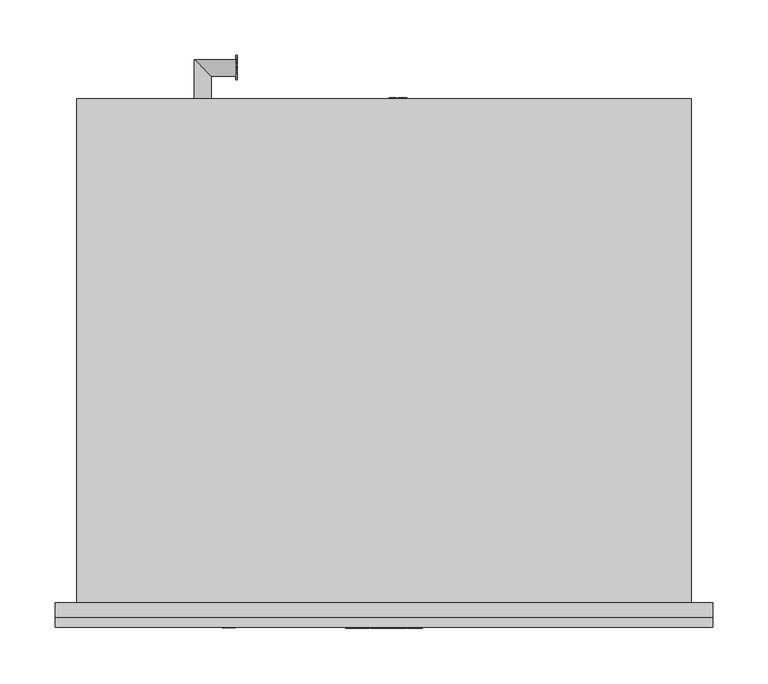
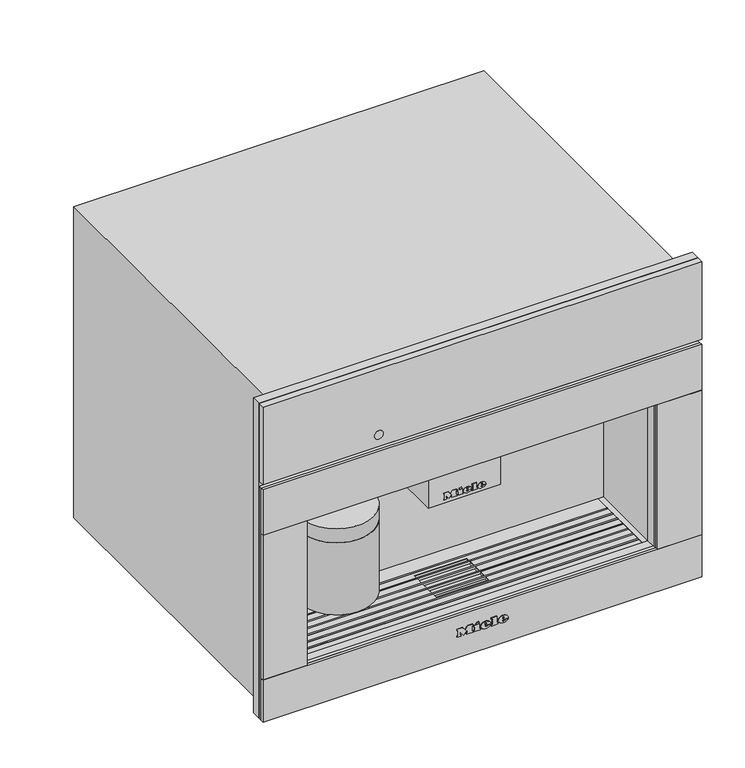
"""IFC4 building model written with IfcOpenShell, lengths in millimetres: proxy geometry, 11165990_NER_CVA7845_GRGR : 29784530_NER_11165990_CVA7845_GRGR."""

from ifc_helpers import new_model, si_unit, point, frame, frame_2d, origin, place, context, project, spatial, polyline, circle_curve, ellipse_curve, trimmed, segment, composite_curve, outline, extrude, faceted_brep, source, transform, mapped, element, save
from ifc_brep_helpers import plane_surface, cylinder_surface, revolved_surface, extruded_surface, advanced_brep


def specialty_equipment_a9d6c1d4(model_context):
    return source(origin(), model_context, "Body", "SolidModel", [
        extrude(outline(composite_curve([segment(trimmed(circle_curve(frame_2d((-14.0, 36.5)), 5.0), [point((-9.0, 36.5))], [point((-19.0, 36.5))], False, "CARTESIAN"), True, "CONTINUOUS"), segment(trimmed(circle_curve(frame_2d((-14.0, 36.5)), 5.0), [point((-19.0, 36.5))], [point((-9.0, 36.5))], False, "CARTESIAN"), True, "CONTINUOUS")], self_intersect=False)), frame((0.0, 0.0, 193.0), z_axis=(0.0, 0.0, 1.0), x_axis=(1.0, 0.0, 0.0)), (0.0, 0.0, 1.0), 5.0),
        extrude(outline(composite_curve([segment(trimmed(circle_curve(frame_2d((14.0, 36.5)), 5.0), [point((19.0, 36.5))], [point((9.0, 36.5))], False, "CARTESIAN"), True, "CONTINUOUS"), segment(trimmed(circle_curve(frame_2d((14.0, 36.5)), 5.0), [point((9.0, 36.5))], [point((19.0, 36.5))], False, "CARTESIAN"), True, "CONTINUOUS")], self_intersect=False)), frame((0.0, 0.0, 193.0), z_axis=(0.0, 0.0, 1.0), x_axis=(1.0, 0.0, 0.0)), (0.0, 0.0, 1.0), 5.0),
        extrude(outline(composite_curve([segment(trimmed(circle_curve(frame_2d((-156.5, 49.5)), 50.0), [point((-106.5, 49.5))], [point((-206.5, 49.5))], False, "CARTESIAN"), True, "CONTINUOUS"), segment(trimmed(circle_curve(frame_2d((-156.5, 49.5)), 50.0), [point((-206.5, 49.5))], [point((-106.5, 49.5))], False, "CARTESIAN"), True, "CONTINUOUS")], self_intersect=False)), frame((0.0, 0.0, 100.0), z_axis=(0.0, 0.0, 1.0), x_axis=(1.0, 0.0, 0.0)), (0.0, 0.0, 1.0), 103.0),
        extrude(outline(polyline([(-49.0, 95.0), (49.0, 95.0), (49.0, 20.0), (-49.0, 20.0), (-49.0, 95.0)])), frame((0.0, 0.0, 198.0), z_axis=(0.0, 0.0, 1.0), x_axis=(1.0, 0.0, 0.0)), (0.0, 0.0, 1.0), 75.0),
        extrude(outline(polyline([(455.5, 297.5), (455.5, -297.5), (4.0, -297.5), (4.0, 297.5), (455.5, 297.5)]), holes=[polyline([(273.0, 237.5), (63.0, 237.5), (63.0, -237.5), (273.0, -237.5), (273.0, 237.5)])]), frame((0.0, -13.0, 0.0), z_axis=(0.0, 1.0, 0.0), x_axis=(0.0, 0.0, 1.0)), (0.0, 0.0, 1.0), 13.0),
        extrude(outline(polyline([(473.48348, 22.0), (473.48348, 32.045631), (474.7391839, 32.045631), (474.7391839, 27.128275), (479.8895318, 32.045631), (481.6455552, 32.045631), (477.3217155, 27.9155425), (481.8025182, 22.0), (480.267224, 22.0), (476.4314411, 27.0669613), (474.7391839, 25.4531857), (474.7391839, 22.0), (473.48348, 22.0)])), frame((-134.0, 0.0, 0.0), z_axis=(1.0, 0.0, 0.0), x_axis=(0.0, 1.0, 0.0)), (0.0, 0.0, 1.0), 1.0),
        extrude(outline(polyline([(484.5420128, 22.0), (481.8025182, 32.045631), (483.0974628, 32.045631), (484.6867131, 25.4433755), (485.1772224, 23.4053092), (485.7020674, 25.207931), (487.6935352, 32.045631), (489.5599232, 32.045631), (491.0069257, 27.0890343), (492.0835937, 23.4053092), (492.5593878, 25.3845144), (494.1633533, 32.045631), (495.4582979, 32.045631), (492.7163507, 22.0), (491.3748077, 22.0), (488.9664069, 29.7500474), (488.630408, 30.8316204), (488.2527159, 29.5293182), (486.0576866, 22.0), (484.5420128, 22.0)])), frame((-134.0, 0.0, 0.0), z_axis=(1.0, 0.0, 0.0), x_axis=(0.0, 1.0, 0.0)), (0.0, 0.0, 1.0), 1.0),
        advanced_brep(
        [(-156.5, 456.0, 27.0), (-171.5, 456.0, 27.0), (-156.5, 476.5, 27.0), (-171.5, 491.5, 27.0), (-134.0, 476.5, 27.0), (-134.0, 491.5, 27.0)],
        [
            (0, 1, circle_curve(frame((-164.0, 456.0, 27.0), z_axis=(0.0, -1.0, 0.0), x_axis=(-1.0, 0.0, 0.0)), 7.5)),
            (1, 0, circle_curve(frame((-164.0, 456.0, 27.0), z_axis=(0.0, -1.0, 0.0), x_axis=(-1.0, 0.0, 0.0)), 7.5)),
            (0, 2),
            (2, 3, ellipse_curve(frame((-164.0, 484.0, 27.0), z_axis=(-0.707106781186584, -0.7071067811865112, 0.0), x_axis=(0.7071067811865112, -0.7071067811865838, 0.0)), 10.6066017, 7.5)),
            (3, 1),
            (3, 2, ellipse_curve(frame((-164.0, 484.0, 27.0), z_axis=(-0.707106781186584, -0.7071067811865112, 0.0), x_axis=(0.7071067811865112, -0.7071067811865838, 0.0)), 10.6066017, 7.5)),
            (4, 5, circle_curve(frame((-134.0, 484.0, 27.0), z_axis=(1.0, 0.0, 0.0), x_axis=(0.0, 1.0, 0.0)), 7.5)),
            (5, 4, circle_curve(frame((-134.0, 484.0, 27.0), z_axis=(1.0, 0.0, 0.0), x_axis=(0.0, 1.0, 0.0)), 7.5)),
            (2, 4),
            (5, 3),
        ],
        [
            plane_surface(frame((-164.0, 456.0, 27.0), z_axis=(0.0, -1.0, 0.0), x_axis=(0.0, 0.0, 1.0))),
            cylinder_surface(frame((-164.0, 456.0, 27.0), z_axis=(0.0, -1.0, 0.0), x_axis=(-1.0, 0.0, 0.0)), 7.5),
            plane_surface(frame((-134.0, 484.0, 27.0), z_axis=(1.0, 0.0, 0.0), x_axis=(0.0, 0.0, 1.0))),
            cylinder_surface(frame((-164.0, 484.0, 27.0), z_axis=(-1.0, 0.0, 0.0), x_axis=(0.0, 1.0, 0.0)), 7.5),
        ],
        [
            (0, [[1, 2]]),
            (1, [[-1, 3, 4, 5]]),
            (1, [[-2, -5, 6, -3]]),
            (2, [[7, 8]]),
            (3, [[-4, 9, -8, 10]]),
            (3, [[-6, -10, -7, -9]]),
        ],
    ),
        extrude(outline(polyline([(97.0, 20.4012141), (107.045631, 20.4012141), (107.045631, 13.1809168), (105.7899271, 13.1809168), (105.7899271, 19.1455102), (102.8076304, 19.1455102), (102.8076304, 13.4948427), (101.5519266, 13.4948427), (101.5519266, 19.1455102), (98.2557039, 19.1455102), (98.2557039, 13.0239538), (97.0, 13.0239538), (97.0, 20.4012141)])), frame((0.0, 456.0, 0.0), z_axis=(0.0, 1.0, 0.0), x_axis=(0.0, 0.0, 1.0)), (0.0, 0.0, 1.0), 1.0),
        extrude(outline(polyline([(97.0, 11.140398), (107.045631, 11.140398), (107.045631, 9.8846941), (98.2557039, 9.8846941), (98.2557039, 4.8618786), (97.0, 4.8618786), (97.0, 11.140398)])), frame((0.0, 456.0, 0.0), z_axis=(0.0, 1.0, 0.0), x_axis=(0.0, 0.0, 1.0)), (0.0, 0.0, 1.0), 1.0),
        advanced_brep(
        [(55.0, 425.5, 102.0), (55.0, 410.5, 102.0), (20.5239538, 425.5, 102.0), (5.5239538, 410.5, 102.0), (20.5239538, 456.0, 102.0), (5.5239538, 456.0, 102.0)],
        [
            (0, 1, circle_curve(frame((55.0, 418.0, 102.0), z_axis=(1.0, 0.0, 0.0), x_axis=(0.0, -1.0, 0.0)), 7.5)),
            (1, 0, circle_curve(frame((55.0, 418.0, 102.0), z_axis=(1.0, 0.0, 0.0), x_axis=(0.0, -1.0, 0.0)), 7.5)),
            (0, 2),
            (2, 3, ellipse_curve(frame((13.0239538, 418.0, 102.0), z_axis=(0.7071067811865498, -0.7071067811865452, 0.0), x_axis=(0.7071067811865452, 0.7071067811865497, 0.0)), 10.6066017, 7.5)),
            (3, 1),
            (3, 2, ellipse_curve(frame((13.0239538, 418.0, 102.0), z_axis=(0.7071067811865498, -0.7071067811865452, 0.0), x_axis=(0.7071067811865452, 0.7071067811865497, 0.0)), 10.6066017, 7.5)),
            (4, 5, circle_curve(frame((13.0239538, 456.0, 102.0), z_axis=(0.0, 1.0, 0.0), x_axis=(-1.0, 0.0, 0.0)), 7.5)),
            (5, 4, circle_curve(frame((13.0239538, 456.0, 102.0), z_axis=(0.0, 1.0, 0.0), x_axis=(-1.0, 0.0, 0.0)), 7.5)),
            (2, 4),
            (5, 3),
        ],
        [
            plane_surface(frame((55.0, 418.0, 102.0), z_axis=(1.0, 0.0, 0.0), x_axis=(0.0, 0.0, 1.0))),
            cylinder_surface(frame((55.0, 418.0, 102.0), z_axis=(1.0, 0.0, 0.0), x_axis=(0.0, -1.0, 0.0)), 7.5),
            plane_surface(frame((13.0239538, 456.0, 102.0), z_axis=(0.0, 1.0, 0.0), x_axis=(0.0, 0.0, 1.0))),
            cylinder_surface(frame((13.0239538, 418.0, 102.0), z_axis=(0.0, -1.0, 0.0), x_axis=(-1.0, 0.0, 0.0)), 7.5),
        ],
        [
            (0, [[1, 2]]),
            (1, [[-1, 3, 4, 5]]),
            (1, [[-2, -5, 6, -3]]),
            (2, [[7, 8]]),
            (3, [[-4, 9, -8, 10]]),
            (3, [[-6, -10, -7, -9]]),
        ],
    ),
        advanced_brep(
        [(-110.0, 49.5, 252.0), (-203.0, 49.5, 252.0), (-206.5, 49.5, 223.5), (-106.5, 49.5, 223.5), (-110.0, 49.5, 273.0), (-203.0, 49.5, 273.0), (-156.5, 49.5, 273.0), (-106.5, 49.5, 203.0), (-206.5, 49.5, 203.0), (-156.5, 49.5, 203.0)],
        [
            (0, 1, circle_curve(frame((-156.5, 49.5, 252.0), z_axis=(0.0, 0.0, -1.0), x_axis=(-1.0, 0.0, 0.0)), 46.5)),
            (1, 2, circle_curve(frame((-206.7961166, 49.5, 238.0012775), z_axis=(0.0, 1.0, 0.0), x_axis=(-1.0, 0.0, 0.0)), 14.5043005)),
            (2, 3, circle_curve(frame((-156.5, 49.5, 223.5), z_axis=(0.0, 0.0, 1.0), x_axis=(-1.0, 0.0, 0.0)), 50.0)),
            (3, 0, circle_curve(frame((-106.2038834, 49.5, 238.0012775), z_axis=(0.0, 1.0, 0.0), x_axis=(1.0, 0.0, 0.0)), 14.5043005)),
            (4, 5, circle_curve(frame((-156.5, 49.5, 273.0), z_axis=(0.0, 0.0, -1.0), x_axis=(-1.0, 0.0, 0.0)), 46.5)),
            (5, 1),
            (0, 4),
            (6, 4),
            (4, 5, circle_curve(frame((-156.5, 49.5, 273.0), z_axis=(0.0, 0.0, 1.0), x_axis=(-1.0, 0.0, 0.0)), 46.5)),
            (5, 6),
            (7, 8, circle_curve(frame((-156.5, 49.5, 203.0), z_axis=(0.0, 0.0, -1.0), x_axis=(-1.0, 0.0, 0.0)), 50.0)),
            (8, 9),
            (9, 7),
            (8, 7, circle_curve(frame((-156.5, 49.5, 203.0), z_axis=(0.0, 0.0, -1.0), x_axis=(-1.0, 0.0, 0.0)), 50.0)),
            (2, 8),
            (7, 3),
            (2, 3, circle_curve(frame((-156.5, 49.5, 223.5), z_axis=(0.0, 0.0, -1.0), x_axis=(-1.0, 0.0, 0.0)), 50.0)),
            (1, 0, circle_curve(frame((-156.5, 49.5, 252.0), z_axis=(0.0, 0.0, -1.0), x_axis=(-1.0, 0.0, 0.0)), 46.5)),
        ],
        [
            revolved_surface(trimmed(ellipse_curve(frame((-206.7961166, 49.5, 238.0012775), z_axis=(0.0, -1.0, 0.0), x_axis=(-1.0, 0.0, 0.0)), 14.5043005, 14.5043005), [point((-206.5, 49.5, 223.5))], [point((-203.0, 49.5, 252.0))], True, "CARTESIAN"), (-156.5, 49.5, 388.7361736), (0.0, 0.0, 1.0)),
            cylinder_surface(frame((-156.5, 49.5, 388.7361736), z_axis=(0.0, 0.0, 1.0), x_axis=(-1.0, 0.0, 0.0)), 46.5),
            plane_surface(frame((-156.5, 49.5, 273.0), z_axis=(0.0, 0.0, 1.0), x_axis=(-1.0, 0.0, 0.0))),
            plane_surface(frame((-156.5, 49.5, 203.0), z_axis=(0.0, 0.0, -1.0), x_axis=(-1.0, 0.0, 0.0))),
            cylinder_surface(frame((-156.5, 49.5, 388.7361736), z_axis=(0.0, 0.0, 1.0), x_axis=(-1.0, 0.0, 0.0)), 50.0),
        ],
        [
            (0, [[1, 2, 3, 4]]),
            (1, [[5, 6, -1, 7]]),
            (2, [[8, 9, 10]]),
            (3, [[11, 12, 13]]),
            (3, [[14, -13, -12]]),
            (4, [[-3, 15, -11, 16]]),
            (4, [[17, -16, -14, -15]]),
            (0, [[18, -4, -17, -2]]),
            (1, [[-9, -7, -18, -6]]),
            (2, [[-10, -5, -8]]),
        ],
    ),
        faceted_brep([(229.5, 82.0925571, 60.0), (229.5, 80.0925571, 60.0), (-229.5, 80.0925571, 60.0), (-229.5, 82.0925571, 60.0), (229.5, 70.0550731, 60.0), (229.5, 68.0550731, 60.0), (-229.5, 68.0550731, 60.0), (-229.5, 70.0550731, 60.0), (229.5, 58.0175891, 60.0), (229.5, 56.0175891, 60.0), (-229.5, 56.0175891, 60.0), (-229.5, 58.0175891, 60.0), (229.5, 45.9801052, 60.0), (229.5, 43.9801052, 60.0), (-229.5, 43.9801052, 60.0), (-229.5, 45.9801052, 60.0), (229.5, 33.9426212, 60.0), (229.5, 31.9426212, 60.0), (-229.5, 31.9426212, 60.0), (-229.5, 33.9426212, 60.0), (229.5, 21.9776522, 60.0), (229.5, 19.9776522, 60.0), (-229.5, 19.9776522, 60.0), (-229.5, 21.9776522, 60.0), (229.5, 10.0, 60.0), (229.5, 8.0, 60.0), (-229.5, 8.0, 60.0), (-229.5, 10.0, 60.0), (-229.5, 45.9801052, 62.0), (-36.0, 45.9801052, 62.0), (-36.0, 45.9801052, 63.0), (-229.5, 45.9801052, 63.0), (-229.5, 45.9801052, 63.5), (229.5, 45.9801052, 63.5), (229.5, 45.9801052, 63.0), (36.0, 45.9801052, 63.0), (36.0, 45.9801052, 62.0), (229.5, 45.9801052, 62.0), (229.5, 19.9776522, 62.0), (229.5, 10.0, 62.0), (-229.5, 10.0, 62.0), (-229.5, 19.9776522, 62.0), (229.5, 43.9801052, 62.0), (229.5, 33.9426212, 62.0), (36.0, 33.9426212, 62.0), (36.0, 43.9801052, 62.0), (229.5, 56.0175891, 62.0), (36.0, 56.0175891, 62.0), (229.5, 68.0550731, 62.0), (229.5, 58.0175891, 62.0), (36.0, 58.0175891, 62.0), (36.0, 68.0550731, 62.0), (-229.5, 33.9426212, 62.0), (-229.5, 43.9801052, 62.0), (-36.0, 43.9801052, 62.0), (-36.0, 33.9426212, 62.0), (-229.5, 56.0175891, 62.0), (-36.0, 56.0175891, 62.0), (-229.5, 58.0175891, 62.0), (-229.5, 68.0550731, 62.0), (-36.0, 68.0550731, 62.0), (-36.0, 58.0175891, 62.0), (-229.5, 104.5, 62.0), (229.5, 104.5, 62.0), (229.5, 82.0925571, 62.0), (-229.5, 82.0925571, 62.0), (36.0, 76.0, 62.0), (-36.0, 76.0, 62.0), (-36.0, 70.0550731, 62.0), (-229.5, 70.0550731, 62.0), (-229.5, 80.0925571, 62.0), (229.5, 80.0925571, 62.0), (229.5, 70.0550731, 62.0), (36.0, 70.0550731, 62.0), (229.5, 0.0, 62.0), (-229.5, 0.0, 62.0), (-229.5, 8.0, 62.0), (229.5, 8.0, 62.0), (-36.0, 25.0, 62.0), (36.0, 25.0, 62.0), (36.0, 31.9426212, 62.0), (229.5, 31.9426212, 62.0), (229.5, 21.9776522, 62.0), (-229.5, 21.9776522, 62.0), (-229.5, 31.9426212, 62.0), (-36.0, 31.9426212, 62.0), (229.5, 104.5, 63.0), (-229.5, 104.5, 63.0), (-229.5, 82.0925571, 63.0), (229.5, 82.0925571, 63.0), (-229.5, 0.0, 63.0), (229.5, 0.0, 63.0), (229.5, 8.0, 63.0), (-229.5, 8.0, 63.0), (-36.0, 76.0, 63.0), (36.0, 76.0, 63.0), (36.0, 70.0550731, 63.0), (229.5, 70.0550731, 63.0), (229.5, 80.0925571, 63.0), (-229.5, 80.0925571, 63.0), (-229.5, 70.0550731, 63.0), (-36.0, 70.0550731, 63.0), (36.0, 25.0, 63.0), (-36.0, 25.0, 63.0), (-36.0, 31.9426212, 63.0), (-229.5, 31.9426212, 63.0), (-229.5, 21.9776522, 63.0), (229.5, 21.9776522, 63.0), (229.5, 31.9426212, 63.0), (36.0, 31.9426212, 63.0), (-229.5, 19.9776522, 63.0), (-229.5, 10.0, 63.0), (229.5, 10.0, 63.0), (229.5, 19.9776522, 63.0), (-229.5, 43.9801052, 63.0), (-229.5, 33.9426212, 63.0), (-36.0, 33.9426212, 63.0), (-36.0, 43.9801052, 63.0), (-229.5, 56.0175891, 63.0), (-36.0, 56.0175891, 63.0), (-229.5, 68.0550731, 63.0), (-229.5, 58.0175891, 63.0), (-36.0, 58.0175891, 63.0), (-36.0, 68.0550731, 63.0), (229.5, 33.9426212, 63.0), (229.5, 43.9801052, 63.0), (36.0, 43.9801052, 63.0), (36.0, 33.9426212, 63.0), (229.5, 56.0175891, 63.0), (36.0, 56.0175891, 63.0), (229.5, 58.0175891, 63.0), (229.5, 68.0550731, 63.0), (36.0, 68.0550731, 63.0), (36.0, 58.0175891, 63.0), (-229.5, 8.0, 63.5), (-229.5, 10.0, 63.5), (-229.5, 19.9776522, 63.5), (-229.5, 21.9776522, 63.5), (-229.5, 31.9426212, 63.5), (-229.5, 33.9426212, 63.5), (-229.5, 43.9801052, 63.5), (-229.5, 56.0175891, 63.5), (-229.5, 58.0175891, 63.5), (-229.5, 68.0550731, 63.5), (-229.5, 70.0550731, 63.5), (-229.5, 80.0925571, 63.5), (-229.5, 82.0925571, 63.5), (229.5, 82.0925571, 63.5), (229.5, 80.0925571, 63.5), (229.5, 70.0550731, 63.5), (229.5, 68.0550731, 63.5), (229.5, 58.0175891, 63.5), (229.5, 56.0175891, 63.5), (229.5, 43.9801052, 63.5), (229.5, 33.9426212, 63.5), (229.5, 31.9426212, 63.5), (229.5, 21.9776522, 63.5), (229.5, 19.9776522, 63.5), (229.5, 10.0, 63.5), (229.5, 8.0, 63.5)], [[[0, 1, 2, 3]], [[4, 5, 6, 7]], [[8, 9, 10, 11]], [[12, 13, 14, 15]], [[16, 17, 18, 19]], [[20, 21, 22, 23]], [[24, 25, 26, 27]], [[12, 15, 28, 29, 30, 31, 32, 33, 34, 35, 36, 37]], [[38, 39, 40, 41]], [[42, 43, 44, 45]], [[46, 37, 36, 47]], [[48, 49, 50, 51]], [[52, 53, 54, 55]], [[28, 56, 57, 29]], [[58, 59, 60, 61]], [[62, 63, 64, 65]], [[66, 67, 68, 69, 70, 71, 72, 73]], [[74, 75, 76, 77]], [[78, 79, 80, 81, 82, 83, 84, 85]], [[86, 87, 88, 89]], [[90, 91, 92, 93]], [[94, 95, 96, 97, 98, 99, 100, 101]], [[102, 103, 104, 105, 106, 107, 108, 109]], [[110, 111, 112, 113]], [[114, 115, 116, 117]], [[118, 31, 30, 119]], [[120, 121, 122, 123]], [[124, 125, 126, 127]], [[34, 128, 129, 35]], [[130, 131, 132, 133]], [[63, 62, 87, 86]], [[87, 62, 65, 3, 2, 70, 69, 7, 6, 59, 58, 11, 10, 56, 28, 15, 14, 53, 52, 19, 18, 84, 83, 23, 22, 41, 40, 27, 26, 76, 75, 90, 93, 134, 135, 111, 110, 136, 137, 106, 105, 138, 139, 115, 114, 140, 32, 31, 118, 141, 142, 121, 120, 143, 144, 100, 99, 145, 146, 88]], [[75, 74, 91, 90]], [[63, 86, 89, 147, 148, 98, 97, 149, 150, 131, 130, 151, 152, 128, 34, 33, 153, 125, 124, 154, 155, 108, 107, 156, 157, 113, 112, 158, 159, 92, 91, 74, 77, 25, 24, 39, 38, 21, 20, 82, 81, 17, 16, 43, 42, 13, 12, 37, 46, 9, 8, 49, 48, 5, 4, 72, 71, 1, 0, 64]], [[66, 95, 94, 67]], [[55, 54, 117, 116]], [[29, 57, 119, 30]], [[61, 60, 123, 122]], [[67, 94, 101, 68]], [[103, 78, 85, 104]], [[78, 103, 102, 79]], [[45, 44, 127, 126]], [[47, 36, 35, 129]], [[51, 50, 133, 132]], [[95, 66, 73, 96]], [[79, 102, 109, 80]], [[158, 135, 134, 159]], [[156, 137, 136, 157]], [[154, 139, 138, 155]], [[33, 32, 140, 153]], [[151, 142, 141, 152]], [[149, 144, 143, 150]], [[147, 146, 145, 148]], [[24, 27, 40, 39]], [[135, 158, 112, 111]], [[26, 25, 77, 76]], [[159, 134, 93, 92]], [[20, 23, 83, 82]], [[137, 156, 107, 106]], [[22, 21, 38, 41]], [[157, 136, 110, 113]], [[16, 19, 52, 55, 116, 115, 139, 154, 124, 127, 44, 43]], [[18, 17, 81, 80, 109, 108, 155, 138, 105, 104, 85, 84]], [[14, 13, 42, 45, 126, 125, 153, 140, 114, 117, 54, 53]], [[8, 11, 58, 61, 122, 121, 142, 151, 130, 133, 50, 49]], [[10, 9, 46, 47, 129, 128, 152, 141, 118, 119, 57, 56]], [[4, 7, 69, 68, 101, 100, 144, 149, 97, 96, 73, 72]], [[6, 5, 48, 51, 132, 131, 150, 143, 120, 123, 60, 59]], [[0, 3, 65, 64]], [[146, 147, 89, 88]], [[2, 1, 71, 70]], [[148, 145, 99, 98]]]),
        faceted_brep([(-278.0, 456.0, 0.0), (-278.0, 0.0, 0.0), (-278.0, 0.0, 446.0), (-278.0, 456.0, 446.0), (278.0, 456.0, 0.0), (278.0, 456.0, 446.0), (278.0, 0.0, 446.0), (278.0, 0.0, 0.0), (55.0, 456.0, 133.0), (-22.0, 456.0, 133.0), (-22.0, 456.0, 89.0), (35.0, 456.0, 66.0), (55.0, 456.0, 66.0), (-36.0, 76.0, 58.0), (36.0, 76.0, 58.0), (36.0, 76.0, 62.0), (-36.0, 76.0, 62.0), (36.0, 25.0, 58.0), (-36.0, 25.0, 58.0), (-36.0, 25.0, 62.0), (36.0, 25.0, 62.0), (237.5, 0.0, 273.0), (237.5, 0.0, 63.0), (229.5, 0.0, 63.0), (229.5, 0.0, 62.0), (-229.5, 0.0, 62.0), (-229.5, 0.0, 63.0), (-237.5, 0.0, 63.0), (-237.5, 0.0, 273.0), (237.5, 104.5, 273.0), (-237.5, 104.5, 273.0), (-237.5, 104.5, 63.0), (-229.5, 104.5, 63.0), (-229.5, 104.5, 62.0), (229.5, 104.5, 62.0), (229.5, 104.5, 63.0), (237.5, 104.5, 63.0), (-22.0, 400.0, 133.0), (55.0, 400.0, 133.0), (55.0, 400.0, 66.0), (35.0, 400.0, 66.0), (-22.0, 400.0, 89.0)], [[[0, 1, 2, 3]], [[4, 5, 6, 7]], [[0, 3, 5, 4], [8, 9, 10, 11, 12]], [[13, 14, 15, 16]], [[17, 18, 19, 20]], [[3, 2, 6, 5]], [[2, 1, 7, 6], [21, 22, 23, 24, 25, 26, 27, 28]], [[1, 0, 4, 7]], [[29, 30, 31, 32, 33, 34, 35, 36]], [[29, 36, 22, 21]], [[22, 36, 35, 23]], [[31, 27, 26, 32]], [[31, 30, 28, 27]], [[30, 29, 21, 28]], [[34, 33, 25, 24], [16, 15, 20, 19]], [[25, 33, 32, 26]], [[34, 24, 23, 35]], [[14, 13, 18, 17]], [[18, 13, 16, 19]], [[14, 17, 20, 15]], [[37, 38, 39, 40, 41]], [[38, 37, 9, 8]], [[39, 38, 8, 12]], [[40, 39, 12, 11]], [[41, 40, 11, 10]], [[37, 41, 10, 9]]]),
        advanced_brep(
        [(27.088, -23.0, 36.7018), (27.088, -23.0, 37.8532), (34.7146, -23.0, 37.8532), (21.445, -23.0, 37.8532), (24.58, -23.0, 34.0), (34.5208, -23.0, 36.7018), (31.078, -23.0, 36.7018), (28.3648, -23.0, 35.425), (27.088, -23.0, 39.3124), (27.088, -23.0, 40.555), (29.0374, -23.0, 40.555), (29.0374, -23.0, 39.3124), (27.088, -22.0, 36.7018), (28.3648, -22.0, 35.425), (31.078, -22.0, 36.7018), (34.5208, -22.0, 36.7018), (24.58, -22.0, 34.0), (21.445, -22.0, 37.8532), (34.7146, -22.0, 37.8532), (27.088, -22.0, 37.8532), (27.088, -22.0, 39.3124), (29.0374, -22.0, 39.3124), (29.0374, -22.0, 40.555), (27.088, -22.0, 40.555)],
        [
            (0, 1),
            (1, 2),
            (2, 3, ellipse_curve(frame((28.0798, -23.0, 37.8532), z_axis=(0.0, -1.0, 0.0), x_axis=(-1.0, 0.0, 0.0)), 6.6348, 5.4834)),
            (3, 4, circle_curve(frame((25.8568622, -23.0, 38.2408), z_axis=(0.0, -1.0, 0.0), x_axis=(0.0, 0.0, -1.0)), 4.4288556)),
            (4, 5, circle_curve(frame((27.9469808, -23.0, 41.2504), z_axis=(0.0, -1.0, 0.0), x_axis=(0.0, 0.0, -1.0)), 7.9940516)),
            (5, 6),
            (6, 7, circle_curve(frame((28.9220588, -23.0, 37.762), z_axis=(0.0, 1.0, 0.0), x_axis=(0.0, 0.0, -1.0)), 2.4025208)),
            (7, 0, circle_curve(frame((28.3648, -23.0, 36.7018), z_axis=(0.0, 1.0, 0.0), x_axis=(0.0, 0.0, -1.0)), 1.2768)),
            (8, 9),
            (9, 10, circle_curve(frame((28.0627, -23.0, 40.555), z_axis=(0.0, 1.0, 0.0), x_axis=(0.0, 0.0, -1.0)), 0.9747)),
            (10, 11),
            (11, 8),
            (12, 13, circle_curve(frame((28.3648, -22.0, 36.7018), z_axis=(0.0, -1.0, 0.0), x_axis=(0.0, 0.0, -1.0)), 1.2768)),
            (13, 14, circle_curve(frame((28.9220588, -22.0, 37.762), z_axis=(0.0, -1.0, 0.0), x_axis=(0.0, 0.0, -1.0)), 2.4025208)),
            (14, 15),
            (15, 16, circle_curve(frame((27.9469808, -22.0, 41.2504), z_axis=(0.0, 1.0, 0.0), x_axis=(0.0, 0.0, -1.0)), 7.9940516)),
            (16, 17, circle_curve(frame((25.8568622, -22.0, 38.2408), z_axis=(0.0, 1.0, 0.0), x_axis=(0.0, 0.0, -1.0)), 4.4288556)),
            (17, 18, ellipse_curve(frame((28.0798, -22.0, 37.8532), z_axis=(0.0, 1.0, 0.0), x_axis=(-1.0, 0.0, 0.0)), 6.6348, 5.4834)),
            (18, 19),
            (19, 12),
            (20, 21),
            (21, 22),
            (22, 23, circle_curve(frame((28.0627, -22.0, 40.555), z_axis=(0.0, -1.0, 0.0), x_axis=(0.0, 0.0, -1.0)), 0.9747)),
            (23, 20),
            (0, 12),
            (19, 1),
            (18, 2),
            (5, 15),
            (14, 6),
            (17, 3),
            (13, 7),
            (16, 4),
            (8, 20),
            (23, 9),
            (22, 10),
            (21, 11),
        ],
        [
            plane_surface(frame((27.088, -23.0, 37.8532), z_axis=(0.0, -1.0, 0.0), x_axis=(0.0, 0.0, 1.0))),
            plane_surface(frame((27.088, -22.0, 37.8532), z_axis=(0.0, 1.0, 0.0), x_axis=(0.0, 0.0, -1.0))),
            plane_surface(frame((27.088, -23.0, 36.7018), z_axis=(1.0, 0.0, 0.0), x_axis=(0.0, 1.0, 0.0))),
            plane_surface(frame((27.088, -23.0, 37.8532), z_axis=(0.0, 0.0, -1.0), x_axis=(0.0, 1.0, 0.0))),
            plane_surface(frame((34.5208, -23.0, 36.7018), z_axis=(0.0, 0.0, 1.0), x_axis=(0.0, 1.0, 0.0))),
            extruded_surface(trimmed(ellipse_curve(frame((28.0798, -21.0, 37.8532), z_axis=(0.0, -1.0, 0.0), x_axis=(-1.0, 0.0, 0.0)), 6.6348, 5.4834), [point((34.7146, -21.0, 37.8532))], [point((21.445, -21.0, 37.8532))], True, "CARTESIAN"), (0.0, -1.0, 0.0), 1.0),
            revolved_surface(polyline([(28.9220588, -22.0, 35.3594792), (28.9220588, -23.0, 35.3594792)]), (28.9220588, -22.0, 37.762), (0.0, 1.0, 0.0)),
            revolved_surface(polyline([(28.3648, -22.0, 35.425), (28.3648, -23.0, 35.425)]), (28.3648, -22.0, 36.7018), (0.0, 1.0, 0.0)),
            cylinder_surface(frame((25.8568622, -22.0, 38.2408), z_axis=(0.0, -1.0, 0.0), x_axis=(0.0, 0.0, -1.0)), 4.4288556),
            cylinder_surface(frame((27.9469808, -22.0, 41.2504), z_axis=(0.0, -1.0, 0.0), x_axis=(0.0, 0.0, -1.0)), 7.9940516),
            plane_surface(frame((27.088, -23.0, 39.3124), z_axis=(1.0, 0.0, 0.0), x_axis=(0.0, 1.0, 0.0))),
            revolved_surface(polyline([(28.0627, -22.0, 39.5803), (28.0627, -23.0, 39.5803)]), (28.0627, -22.0, 40.555), (0.0, 1.0, 0.0)),
            plane_surface(frame((29.0374, -23.0, 40.555), z_axis=(-1.0, 0.0, 0.0), x_axis=(0.0, 1.0, 0.0))),
            plane_surface(frame((29.0374, -23.0, 39.3124), z_axis=(0.0, 0.0, 1.0), x_axis=(0.0, 1.0, 0.0))),
        ],
        [
            (0, [[1, 2, 3, 4, 5, 6, 7, 8], [9, 10, 11, 12]]),
            (1, [[13, 14, 15, 16, 17, 18, 19, 20], [21, 22, 23, 24]]),
            (2, [[-1, 25, -20, 26]]),
            (3, [[-2, -26, -19, 27]]),
            (4, [[-6, 28, -15, 29]]),
            (5, [[-3, -27, -18, 30]]),
            (6, [[-7, -29, -14, 31]]),
            (7, [[-8, -31, -13, -25]]),
            (8, [[-4, -30, -17, 32]]),
            (9, [[-5, -32, -16, -28]]),
            (10, [[-9, 33, -24, 34]]),
            (11, [[-10, -34, -23, 35]]),
            (12, [[-11, -35, -22, 36]]),
            (13, [[-12, -36, -21, -33]]),
        ],
    ),
        advanced_brep(
        [(3.2962, -23.0, 36.7018), (3.2962, -23.0, 37.8532), (10.9228, -23.0, 37.8532), (-2.3468, -23.0, 37.8532), (0.7882, -23.0, 34.0), (10.729, -23.0, 36.7018), (7.2862, -23.0, 36.7018), (4.573, -23.0, 35.425), (3.2962, -23.0, 39.3124), (3.2962, -23.0, 40.555), (5.2456, -23.0, 40.555), (5.2456, -23.0, 39.3124), (3.2962, -22.0, 36.7018), (4.573, -22.0, 35.425), (7.2862, -22.0, 36.7018), (10.729, -22.0, 36.7018), (0.7882, -22.0, 34.0), (-2.3468, -22.0, 37.8532), (10.9228, -22.0, 37.8532), (3.2962, -22.0, 37.8532), (3.2962, -22.0, 39.3124), (5.2456, -22.0, 39.3124), (5.2456, -22.0, 40.555), (3.2962, -22.0, 40.555)],
        [
            (0, 1),
            (1, 2),
            (2, 3, ellipse_curve(frame((4.288, -23.0, 37.8532), z_axis=(0.0, -1.0, 0.0), x_axis=(-1.0, 0.0, 0.0)), 6.6348, 5.4834)),
            (3, 4, circle_curve(frame((2.0650622, -23.0, 38.2408), z_axis=(0.0, -1.0, 0.0), x_axis=(0.0, 0.0, -1.0)), 4.4288556)),
            (4, 5, circle_curve(frame((4.1551808, -23.0, 41.2504), z_axis=(0.0, -1.0, 0.0), x_axis=(0.0, 0.0, -1.0)), 7.9940516)),
            (5, 6),
            (6, 7, circle_curve(frame((5.1302588, -23.0, 37.762), z_axis=(0.0, 1.0, 0.0), x_axis=(0.0, 0.0, -1.0)), 2.4025208)),
            (7, 0, circle_curve(frame((4.573, -23.0, 36.7018), z_axis=(0.0, 1.0, 0.0), x_axis=(0.0, 0.0, -1.0)), 1.2768)),
            (8, 9),
            (9, 10, circle_curve(frame((4.2709, -23.0, 40.555), z_axis=(0.0, 1.0, 0.0), x_axis=(0.0, 0.0, -1.0)), 0.9747)),
            (10, 11),
            (11, 8),
            (12, 13, circle_curve(frame((4.573, -22.0, 36.7018), z_axis=(0.0, -1.0, 0.0), x_axis=(0.0, 0.0, -1.0)), 1.2768)),
            (13, 14, circle_curve(frame((5.1302588, -22.0, 37.762), z_axis=(0.0, -1.0, 0.0), x_axis=(0.0, 0.0, -1.0)), 2.4025208)),
            (14, 15),
            (15, 16, circle_curve(frame((4.1551808, -22.0, 41.2504), z_axis=(0.0, 1.0, 0.0), x_axis=(0.0, 0.0, -1.0)), 7.9940516)),
            (16, 17, circle_curve(frame((2.0650622, -22.0, 38.2408), z_axis=(0.0, 1.0, 0.0), x_axis=(0.0, 0.0, -1.0)), 4.4288556)),
            (17, 18, ellipse_curve(frame((4.288, -22.0, 37.8532), z_axis=(0.0, 1.0, 0.0), x_axis=(-1.0, 0.0, 0.0)), 6.6348, 5.4834)),
            (18, 19),
            (19, 12),
            (20, 21),
            (21, 22),
            (22, 23, circle_curve(frame((4.2709, -22.0, 40.555), z_axis=(0.0, -1.0, 0.0), x_axis=(0.0, 0.0, -1.0)), 0.9747)),
            (23, 20),
            (0, 12),
            (19, 1),
            (18, 2),
            (5, 15),
            (14, 6),
            (17, 3),
            (13, 7),
            (16, 4),
            (8, 20),
            (23, 9),
            (22, 10),
            (21, 11),
        ],
        [
            plane_surface(frame((3.2962, -23.0, 37.8532), z_axis=(0.0, -1.0, 0.0), x_axis=(0.0, 0.0, 1.0))),
            plane_surface(frame((3.2962, -22.0, 37.8532), z_axis=(0.0, 1.0, 0.0), x_axis=(0.0, 0.0, -1.0))),
            plane_surface(frame((3.2962, -23.0, 36.7018), z_axis=(1.0, 0.0, 0.0), x_axis=(0.0, 1.0, 0.0))),
            plane_surface(frame((3.2962, -23.0, 37.8532), z_axis=(0.0, 0.0, -1.0), x_axis=(0.0, 1.0, 0.0))),
            plane_surface(frame((10.729, -23.0, 36.7018), z_axis=(0.0, 0.0, 1.0), x_axis=(0.0, 1.0, 0.0))),
            extruded_surface(trimmed(ellipse_curve(frame((4.288, -21.0, 37.8532), z_axis=(0.0, -1.0, 0.0), x_axis=(-1.0, 0.0, 0.0)), 6.6348, 5.4834), [point((10.9228, -21.0, 37.8532))], [point((-2.3468, -21.0, 37.8532))], True, "CARTESIAN"), (0.0, -1.0, 0.0), 1.0),
            revolved_surface(polyline([(5.1302588, -22.0, 35.3594792), (5.1302588, -23.0, 35.3594792)]), (5.1302588, -22.0, 37.762), (0.0, 1.0, 0.0)),
            revolved_surface(polyline([(4.573, -22.0, 35.425), (4.573, -23.0, 35.425)]), (4.573, -22.0, 36.7018), (0.0, 1.0, 0.0)),
            cylinder_surface(frame((2.0650622, -22.0, 38.2408), z_axis=(0.0, -1.0, 0.0), x_axis=(0.0, 0.0, -1.0)), 4.4288556),
            cylinder_surface(frame((4.1551808, -22.0, 41.2504), z_axis=(0.0, -1.0, 0.0), x_axis=(0.0, 0.0, -1.0)), 7.9940516),
            plane_surface(frame((3.2962, -23.0, 39.3124), z_axis=(1.0, 0.0, 0.0), x_axis=(0.0, 1.0, 0.0))),
            revolved_surface(polyline([(4.2709, -22.0, 39.5803), (4.2709, -23.0, 39.5803)]), (4.2709, -22.0, 40.555), (0.0, 1.0, 0.0)),
            plane_surface(frame((5.2456, -23.0, 40.555), z_axis=(-1.0, 0.0, 0.0), x_axis=(0.0, 1.0, 0.0))),
            plane_surface(frame((5.2456, -23.0, 39.3124), z_axis=(0.0, 0.0, 1.0), x_axis=(0.0, 1.0, 0.0))),
        ],
        [
            (0, [[1, 2, 3, 4, 5, 6, 7, 8], [9, 10, 11, 12]]),
            (1, [[13, 14, 15, 16, 17, 18, 19, 20], [21, 22, 23, 24]]),
            (2, [[-1, 25, -20, 26]]),
            (3, [[-2, -26, -19, 27]]),
            (4, [[-6, 28, -15, 29]]),
            (5, [[-3, -27, -18, 30]]),
            (6, [[-7, -29, -14, 31]]),
            (7, [[-8, -31, -13, -25]]),
            (8, [[-4, -30, -17, 32]]),
            (9, [[-5, -32, -16, -28]]),
            (10, [[-9, 33, -24, 34]]),
            (11, [[-10, -34, -23, 35]]),
            (12, [[-11, -35, -22, 36]]),
            (13, [[-12, -36, -21, -33]]),
        ],
    ),
        extrude(outline(polyline([(44.7274, -9.164), (42.8806, -8.2976), (44.6818, -4.433), (46.5286, -5.288), (44.7274, -9.164)])), frame((0.0, -23.0, 0.0), z_axis=(0.0, 1.0, 0.0), x_axis=(0.0, 0.0, 1.0)), (0.0, 0.0, 1.0), 1.0),
        extrude(outline(polyline([(42.6298, -11.9798), (40.5892, -11.9798), (40.5892, -10.6232), (35.9152, -10.6232), (35.9152, -11.9798), (34.0, -11.9798), (34.0, -2.9852), (35.9152, -2.9852), (35.9152, -4.3076), (42.6298, -4.3076), (42.6298, -11.9798)])), frame((0.0, -23.0, 0.0), z_axis=(0.0, 1.0, 0.0), x_axis=(0.0, 0.0, 1.0)), (0.0, 0.0, 1.0), 1.0),
        extrude(outline(polyline([(43.5418, 11.5612), (43.5418, 12.9292), (35.9152, 12.9292), (35.9152, 11.5612), (34.0, 11.5612), (34.0, 20.8066), (35.9152, 20.8066), (35.9152, 19.4044), (45.4, 19.4044), (45.4, 11.5612), (43.5418, 11.5612)])), frame((0.0, -23.0, 0.0), z_axis=(0.0, 1.0, 0.0), x_axis=(0.0, 0.0, 1.0)), (0.0, 0.0, 1.0), 1.0),
        extrude(outline(polyline([(43.5418, -34.7), (43.5418, -33.3206), (35.9152, -33.3206), (35.9152, -34.7), (34.0, -34.7), (34.0, -29.684), (35.9152, -29.684), (35.9152, -31.052), (40.7429247, -31.052), (34.0, -25.9562), (40.9402223, -20.8376), (35.9152, -20.8376), (35.9152, -22.2398), (34.0, -22.2398), (34.0, -13.1426), (35.9152, -13.1426), (35.9152, -14.5904), (43.5418, -14.5904), (43.5418, -13.1426), (45.4, -13.1426), (45.4, -20.0852), (41.125, -23.414), (45.4, -26.7542), (45.4, -34.7), (43.5418, -34.7)])), frame((0.0, -23.0, 0.0), z_axis=(0.0, 1.0, 0.0), x_axis=(0.0, 0.0, 1.0)), (0.0, 0.0, 1.0), 1.0),
        advanced_brep(
        [(22.348, 19.0, 205.5278), (22.348, 19.0, 206.4772), (28.6366, 19.0, 206.4772), (17.695, 19.0, 206.4772), (20.28, 19.0, 203.3), (28.4768, 19.0, 205.5278), (25.638, 19.0, 205.5278), (23.4008, 19.0, 204.475), (22.348, 19.0, 207.6804), (22.348, 19.0, 208.705), (23.9554, 19.0, 208.705), (23.9554, 19.0, 207.6804), (22.348, 20.0, 205.5278), (23.4008, 20.0, 204.475), (25.638, 20.0, 205.5278), (28.4768, 20.0, 205.5278), (20.28, 20.0, 203.3), (17.695, 20.0, 206.4772), (28.6366, 20.0, 206.4772), (22.348, 20.0, 206.4772), (22.348, 20.0, 207.6804), (23.9554, 20.0, 207.6804), (23.9554, 20.0, 208.705), (22.348, 20.0, 208.705)],
        [
            (0, 1),
            (1, 2),
            (2, 3, ellipse_curve(frame((23.1658, 19.0, 206.4772), z_axis=(0.0, -1.0, 0.0), x_axis=(-1.0, 0.0, 0.0)), 5.4708, 4.5214)),
            (3, 4, circle_curve(frame((21.3328513, 19.0, 206.7968), z_axis=(0.0, -1.0, 0.0), x_axis=(0.0, 0.0, -1.0)), 3.6518634)),
            (4, 5, circle_curve(frame((23.0562825, 19.0, 209.2784), z_axis=(0.0, -1.0, 0.0), x_axis=(0.0, 0.0, -1.0)), 6.5915864)),
            (5, 6),
            (6, 7, circle_curve(frame((23.8602941, 19.0, 206.402), z_axis=(0.0, 1.0, 0.0), x_axis=(0.0, 0.0, -1.0)), 1.981026)),
            (7, 0, circle_curve(frame((23.4008, 19.0, 205.5278), z_axis=(0.0, 1.0, 0.0), x_axis=(0.0, 0.0, -1.0)), 1.0528)),
            (8, 9),
            (9, 10, circle_curve(frame((23.1517, 19.0, 208.705), z_axis=(0.0, 1.0, 0.0), x_axis=(0.0, 0.0, -1.0)), 0.8037)),
            (10, 11),
            (11, 8),
            (12, 13, circle_curve(frame((23.4008, 20.0, 205.5278), z_axis=(0.0, -1.0, 0.0), x_axis=(0.0, 0.0, -1.0)), 1.0528)),
            (13, 14, circle_curve(frame((23.8602941, 20.0, 206.402), z_axis=(0.0, -1.0, 0.0), x_axis=(0.0, 0.0, -1.0)), 1.981026)),
            (14, 15),
            (15, 16, circle_curve(frame((23.0562825, 20.0, 209.2784), z_axis=(0.0, 1.0, 0.0), x_axis=(0.0, 0.0, -1.0)), 6.5915864)),
            (16, 17, circle_curve(frame((21.3328513, 20.0, 206.7968), z_axis=(0.0, 1.0, 0.0), x_axis=(0.0, 0.0, -1.0)), 3.6518634)),
            (17, 18, ellipse_curve(frame((23.1658, 20.0, 206.4772), z_axis=(0.0, 1.0, 0.0), x_axis=(-1.0, 0.0, 0.0)), 5.4708, 4.5214)),
            (18, 19),
            (19, 12),
            (20, 21),
            (21, 22),
            (22, 23, circle_curve(frame((23.1517, 20.0, 208.705), z_axis=(0.0, -1.0, 0.0), x_axis=(0.0, 0.0, -1.0)), 0.8037)),
            (23, 20),
            (0, 12),
            (19, 1),
            (18, 2),
            (5, 15),
            (14, 6),
            (17, 3),
            (13, 7),
            (16, 4),
            (8, 20),
            (23, 9),
            (22, 10),
            (21, 11),
        ],
        [
            plane_surface(frame((22.348, 19.0, 206.4772), z_axis=(0.0, -1.0, 0.0), x_axis=(0.0, 0.0, 1.0))),
            plane_surface(frame((22.348, 20.0, 206.4772), z_axis=(0.0, 1.0, 0.0), x_axis=(0.0, 0.0, -1.0))),
            plane_surface(frame((22.348, 19.0, 205.5278), z_axis=(1.0, 0.0, 0.0), x_axis=(0.0, 1.0, 0.0))),
            plane_surface(frame((22.348, 19.0, 206.4772), z_axis=(0.0, 0.0, -1.0), x_axis=(0.0, 1.0, 0.0))),
            plane_surface(frame((28.4768, 19.0, 205.5278), z_axis=(0.0, 0.0, 1.0), x_axis=(0.0, 1.0, 0.0))),
            extruded_surface(trimmed(ellipse_curve(frame((23.1658, 21.0, 206.4772), z_axis=(0.0, -1.0, 0.0), x_axis=(-1.0, 0.0, 0.0)), 5.4708, 4.5214), [point((28.6366, 21.0, 206.4772))], [point((17.695, 21.0, 206.4772))], True, "CARTESIAN"), (0.0, -1.0, 0.0), 1.0),
            revolved_surface(polyline([(23.8602941, 20.0, 204.420974), (23.8602941, 19.0, 204.420974)]), (23.8602941, 20.0, 206.402), (0.0, 1.0, 0.0)),
            revolved_surface(polyline([(23.4008, 20.0, 204.47500000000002), (23.4008, 19.0, 204.47500000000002)]), (23.4008, 20.0, 205.5278), (0.0, 1.0, 0.0)),
            cylinder_surface(frame((21.3328513, 20.0, 206.7968), z_axis=(0.0, -1.0, 0.0), x_axis=(0.0, 0.0, -1.0)), 3.6518634),
            cylinder_surface(frame((23.0562825, 20.0, 209.2784), z_axis=(0.0, -1.0, 0.0), x_axis=(0.0, 0.0, -1.0)), 6.5915864),
            plane_surface(frame((22.348, 19.0, 207.6804), z_axis=(1.0, 0.0, 0.0), x_axis=(0.0, 1.0, 0.0))),
            revolved_surface(polyline([(23.1517, 20.0, 207.90130000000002), (23.1517, 19.0, 207.90130000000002)]), (23.1517, 20.0, 208.705), (0.0, 1.0, 0.0)),
            plane_surface(frame((23.9554, 19.0, 208.705), z_axis=(-1.0, 0.0, 0.0), x_axis=(0.0, 1.0, 0.0))),
            plane_surface(frame((23.9554, 19.0, 207.6804), z_axis=(0.0, 0.0, 1.0), x_axis=(0.0, 1.0, 0.0))),
        ],
        [
            (0, [[1, 2, 3, 4, 5, 6, 7, 8], [9, 10, 11, 12]]),
            (1, [[13, 14, 15, 16, 17, 18, 19, 20], [21, 22, 23, 24]]),
            (2, [[-1, 25, -20, 26]]),
            (3, [[-2, -26, -19, 27]]),
            (4, [[-6, 28, -15, 29]]),
            (5, [[-3, -27, -18, 30]]),
            (6, [[-7, -29, -14, 31]]),
            (7, [[-8, -31, -13, -25]]),
            (8, [[-4, -30, -17, 32]]),
            (9, [[-5, -32, -16, -28]]),
            (10, [[-9, 33, -24, 34]]),
            (11, [[-10, -34, -23, 35]]),
            (12, [[-11, -35, -22, 36]]),
            (13, [[-12, -36, -21, -33]]),
        ],
    ),
        advanced_brep(
        [(2.7302, 19.0, 205.5278), (2.7302, 19.0, 206.4772), (9.0188, 19.0, 206.4772), (-1.9228, 19.0, 206.4772), (0.6622, 19.0, 203.3), (8.859, 19.0, 205.5278), (6.0202, 19.0, 205.5278), (3.783, 19.0, 204.475), (2.7302, 19.0, 207.6804), (2.7302, 19.0, 208.705), (4.3376, 19.0, 208.705), (4.3376, 19.0, 207.6804), (2.7302, 20.0, 205.5278), (3.783, 20.0, 204.475), (6.0202, 20.0, 205.5278), (8.859, 20.0, 205.5278), (0.6622, 20.0, 203.3), (-1.9228, 20.0, 206.4772), (9.0188, 20.0, 206.4772), (2.7302, 20.0, 206.4772), (2.7302, 20.0, 207.6804), (4.3376, 20.0, 207.6804), (4.3376, 20.0, 208.705), (2.7302, 20.0, 208.705)],
        [
            (0, 1),
            (1, 2),
            (2, 3, ellipse_curve(frame((3.548, 19.0, 206.4772), z_axis=(0.0, -1.0, 0.0), x_axis=(-1.0, 0.0, 0.0)), 5.4708, 4.5214)),
            (3, 4, circle_curve(frame((1.7150513, 19.0, 206.7968), z_axis=(0.0, -1.0, 0.0), x_axis=(0.0, 0.0, -1.0)), 3.6518634)),
            (4, 5, circle_curve(frame((3.4384825, 19.0, 209.2784), z_axis=(0.0, -1.0, 0.0), x_axis=(0.0, 0.0, -1.0)), 6.5915864)),
            (5, 6),
            (6, 7, circle_curve(frame((4.2424941, 19.0, 206.402), z_axis=(0.0, 1.0, 0.0), x_axis=(0.0, 0.0, -1.0)), 1.981026)),
            (7, 0, circle_curve(frame((3.783, 19.0, 205.5278), z_axis=(0.0, 1.0, 0.0), x_axis=(0.0, 0.0, -1.0)), 1.0528)),
            (8, 9),
            (9, 10, circle_curve(frame((3.5339, 19.0, 208.705), z_axis=(0.0, 1.0, 0.0), x_axis=(0.0, 0.0, -1.0)), 0.8037)),
            (10, 11),
            (11, 8),
            (12, 13, circle_curve(frame((3.783, 20.0, 205.5278), z_axis=(0.0, -1.0, 0.0), x_axis=(0.0, 0.0, -1.0)), 1.0528)),
            (13, 14, circle_curve(frame((4.2424941, 20.0, 206.402), z_axis=(0.0, -1.0, 0.0), x_axis=(0.0, 0.0, -1.0)), 1.981026)),
            (14, 15),
            (15, 16, circle_curve(frame((3.4384825, 20.0, 209.2784), z_axis=(0.0, 1.0, 0.0), x_axis=(0.0, 0.0, -1.0)), 6.5915864)),
            (16, 17, circle_curve(frame((1.7150513, 20.0, 206.7968), z_axis=(0.0, 1.0, 0.0), x_axis=(0.0, 0.0, -1.0)), 3.6518634)),
            (17, 18, ellipse_curve(frame((3.548, 20.0, 206.4772), z_axis=(0.0, 1.0, 0.0), x_axis=(-1.0, 0.0, 0.0)), 5.4708, 4.5214)),
            (18, 19),
            (19, 12),
            (20, 21),
            (21, 22),
            (22, 23, circle_curve(frame((3.5339, 20.0, 208.705), z_axis=(0.0, -1.0, 0.0), x_axis=(0.0, 0.0, -1.0)), 0.8037)),
            (23, 20),
            (0, 12),
            (19, 1),
            (18, 2),
            (5, 15),
            (14, 6),
            (17, 3),
            (13, 7),
            (16, 4),
            (8, 20),
            (23, 9),
            (22, 10),
            (21, 11),
        ],
        [
            plane_surface(frame((2.7302, 19.0, 206.4772), z_axis=(0.0, -1.0, 0.0), x_axis=(0.0, 0.0, 1.0))),
            plane_surface(frame((2.7302, 20.0, 206.4772), z_axis=(0.0, 1.0, 0.0), x_axis=(0.0, 0.0, -1.0))),
            plane_surface(frame((2.7302, 19.0, 205.5278), z_axis=(1.0, 0.0, 0.0), x_axis=(0.0, 1.0, 0.0))),
            plane_surface(frame((2.7302, 19.0, 206.4772), z_axis=(0.0, 0.0, -1.0), x_axis=(0.0, 1.0, 0.0))),
            plane_surface(frame((8.859, 19.0, 205.5278), z_axis=(0.0, 0.0, 1.0), x_axis=(0.0, 1.0, 0.0))),
            extruded_surface(trimmed(ellipse_curve(frame((3.548, 21.0, 206.4772), z_axis=(0.0, -1.0, 0.0), x_axis=(-1.0, 0.0, 0.0)), 5.4708, 4.5214), [point((9.0188, 21.0, 206.4772))], [point((-1.9228, 21.0, 206.4772))], True, "CARTESIAN"), (0.0, -1.0, 0.0), 1.0),
            revolved_surface(polyline([(4.2424941, 20.0, 204.420974), (4.2424941, 19.0, 204.420974)]), (4.2424941, 20.0, 206.402), (0.0, 1.0, 0.0)),
            revolved_surface(polyline([(3.783, 20.0, 204.47500000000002), (3.783, 19.0, 204.47500000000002)]), (3.783, 20.0, 205.5278), (0.0, 1.0, 0.0)),
            cylinder_surface(frame((1.7150513, 20.0, 206.7968), z_axis=(0.0, -1.0, 0.0), x_axis=(0.0, 0.0, -1.0)), 3.6518634),
            cylinder_surface(frame((3.4384825, 20.0, 209.2784), z_axis=(0.0, -1.0, 0.0), x_axis=(0.0, 0.0, -1.0)), 6.5915864),
            plane_surface(frame((2.7302, 19.0, 207.6804), z_axis=(1.0, 0.0, 0.0), x_axis=(0.0, 1.0, 0.0))),
            revolved_surface(polyline([(3.5339, 20.0, 207.90130000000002), (3.5339, 19.0, 207.90130000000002)]), (3.5339, 20.0, 208.705), (0.0, 1.0, 0.0)),
            plane_surface(frame((4.3376, 19.0, 208.705), z_axis=(-1.0, 0.0, 0.0), x_axis=(0.0, 1.0, 0.0))),
            plane_surface(frame((4.3376, 19.0, 207.6804), z_axis=(0.0, 0.0, 1.0), x_axis=(0.0, 1.0, 0.0))),
        ],
        [
            (0, [[1, 2, 3, 4, 5, 6, 7, 8], [9, 10, 11, 12]]),
            (1, [[13, 14, 15, 16, 17, 18, 19, 20], [21, 22, 23, 24]]),
            (2, [[-1, 25, -20, 26]]),
            (3, [[-2, -26, -19, 27]]),
            (4, [[-6, 28, -15, 29]]),
            (5, [[-3, -27, -18, 30]]),
            (6, [[-7, -29, -14, 31]]),
            (7, [[-8, -31, -13, -25]]),
            (8, [[-4, -30, -17, 32]]),
            (9, [[-5, -32, -16, -28]]),
            (10, [[-9, 33, -24, 34]]),
            (11, [[-10, -34, -23, 35]]),
            (12, [[-11, -35, -22, 36]]),
            (13, [[-12, -36, -21, -33]]),
        ],
    ),
        extrude(outline(polyline([(212.1454, -7.544), (210.6226, -6.8296), (212.1078, -3.643), (213.6306, -4.348), (212.1454, -7.544)])), frame((0.0, 19.0, 0.0), z_axis=(0.0, 1.0, 0.0), x_axis=(0.0, 0.0, 1.0)), (0.0, 0.0, 1.0), 1.0),
        extrude(outline(polyline([(210.4158, -9.8658), (208.7332, -9.8658), (208.7332, -8.7472), (204.8792, -8.7472), (204.8792, -9.8658), (203.3, -9.8658), (203.3, -2.4492), (204.8792, -2.4492), (204.8792, -3.5396), (210.4158, -3.5396), (210.4158, -9.8658)])), frame((0.0, 19.0, 0.0), z_axis=(0.0, 1.0, 0.0), x_axis=(0.0, 0.0, 1.0)), (0.0, 0.0, 1.0), 1.0),
        extrude(outline(polyline([(211.1678, 9.5452), (211.1678, 10.6732), (204.8792, 10.6732), (204.8792, 9.5452), (203.3, 9.5452), (203.3, 17.1686), (204.8792, 17.1686), (204.8792, 16.0124), (212.7, 16.0124), (212.7, 9.5452), (211.1678, 9.5452)])), frame((0.0, 19.0, 0.0), z_axis=(0.0, 1.0, 0.0), x_axis=(0.0, 0.0, 1.0)), (0.0, 0.0, 1.0), 1.0),
        extrude(outline(polyline([(211.1678, -28.6), (211.1678, -27.4626), (204.8792, -27.4626), (204.8792, -28.6), (203.3, -28.6), (203.3, -24.464), (204.8792, -24.464), (204.8792, -25.592), (208.8689247, -25.592), (203.3, -21.3902), (208.9902223, -17.1696), (204.8792, -17.1696), (204.8792, -18.3258), (203.3, -18.3258), (203.3, -10.8246), (204.8792, -10.8246), (204.8792, -12.0184), (211.1678, -12.0184), (211.1678, -10.8246), (212.7, -10.8246), (212.7, -16.5492), (209.175, -19.294), (212.7, -22.0482), (212.7, -28.6), (211.1678, -28.6)])), frame((0.0, 19.0, 0.0), z_axis=(0.0, 1.0, 0.0), x_axis=(0.0, 0.0, 1.0)), (0.0, 0.0, 1.0), 1.0),
        extrude(outline(polyline([(-297.5, -18.0), (297.5, -18.0), (297.5, -22.0), (-297.5, -22.0), (-297.5, -18.0)])), frame((0.0, 0.0, 272.0), z_axis=(0.0, 0.0, 1.0), x_axis=(1.0, 0.0, 0.0)), (0.0, 0.0, 1.0), 65.0),
        extrude(outline(polyline([(-297.5, -18.0), (297.5, -18.0), (297.5, -22.0), (-297.5, -22.0), (-297.5, -18.0)])), frame((0.0, 0.0, 4.0), z_axis=(0.0, 0.0, 1.0), x_axis=(1.0, 0.0, 0.0)), (0.0, 0.0, 1.0), 60.0),
        extrude(outline(polyline([(-297.5, -18.0), (-237.5, -18.0), (-237.5, -22.0), (-297.5, -22.0), (-297.5, -18.0)])), frame((0.0, 0.0, 64.5), z_axis=(0.0, 0.0, 1.0), x_axis=(1.0, 0.0, 0.0)), (0.0, 0.0, 1.0), 207.0),
        extrude(outline(polyline([(237.5, -18.0), (297.5, -18.0), (297.5, -22.0), (237.5, -22.0), (237.5, -18.0)])), frame((0.0, 0.0, 64.5), z_axis=(0.0, 0.0, 1.0), x_axis=(1.0, 0.0, 0.0)), (0.0, 0.0, 1.0), 207.0),
        extrude(outline(polyline([(337.0, 297.5), (337.0, -297.5), (4.0, -297.5), (4.0, 297.5), (337.0, 297.5)]), holes=[polyline([(272.0, 237.5), (64.0, 237.5), (64.0, -237.5), (272.0, -237.5), (272.0, 237.5)])]), frame((0.0, -18.0, 0.0), z_axis=(0.0, 1.0, 0.0), x_axis=(0.0, 0.0, 1.0)), (0.0, 0.0, 1.0), 5.0),
        extrude(outline(polyline([(297.5, -22.0), (-297.5, -22.0), (-297.5, -13.0), (297.5, -13.0), (297.5, -22.0)])), frame((0.0, 0.0, 344.0), z_axis=(0.0, 0.0, 1.0), x_axis=(1.0, 0.0, 0.0)), (0.0, 0.0, 1.0), 111.5),
        extrude(outline(composite_curve([segment(trimmed(circle_curve(frame_2d((361.0, -140.5745637)), 6.0), [point((361.0, -146.5745637))], [point((361.0, -134.5745637))], False, "CARTESIAN"), True, "CONTINUOUS"), segment(trimmed(circle_curve(frame_2d((361.0, -140.5745637)), 6.0), [point((361.0, -134.5745637))], [point((361.0, -146.5745637))], False, "CARTESIAN"), True, "CONTINUOUS")], self_intersect=False)), frame((0.0, -22.5, 0.0), z_axis=(0.0, 1.0, 0.0), x_axis=(0.0, 0.0, 1.0)), (0.0, 0.0, 1.0), 1.0),
    ])


if __name__ == "__main__":
    model = new_model("IFC4")
    model_context = context("Model", 3, world=origin())
    ifc_project = project(units=[si_unit("LENGTHUNIT", "METRE", prefix="MILLI")], contexts=[model_context])
    site = spatial("IfcSite", under=ifc_project)
    building = spatial("IfcBuilding", under=site)
    placement = place(None, origin())
    specialty_equipment_shape = specialty_equipment_a9d6c1d4(model_context)
    element("IfcBuildingElementProxy", 1, Name="11165990_NER_CVA7845_GRGR : 29784530_NER_11165990_CVA7845_GRGR", ObjectType="11165990_NER_CVA7845_GRGR : 29784530_NER_11165990_CVA7845_GRGR", at=placement, inside=building, context=model_context, shape_type="MappedRepresentation", body=[
        mapped(specialty_equipment_shape, transform((0.0, 0.0, 0.0), x_axis=(1.0, 0.0, 0.0), y_axis=(0.0, 1.0, 0.0), z_axis=(0.0, 0.0, 1.0))),
    ])
    save(model, "model.ifc")
